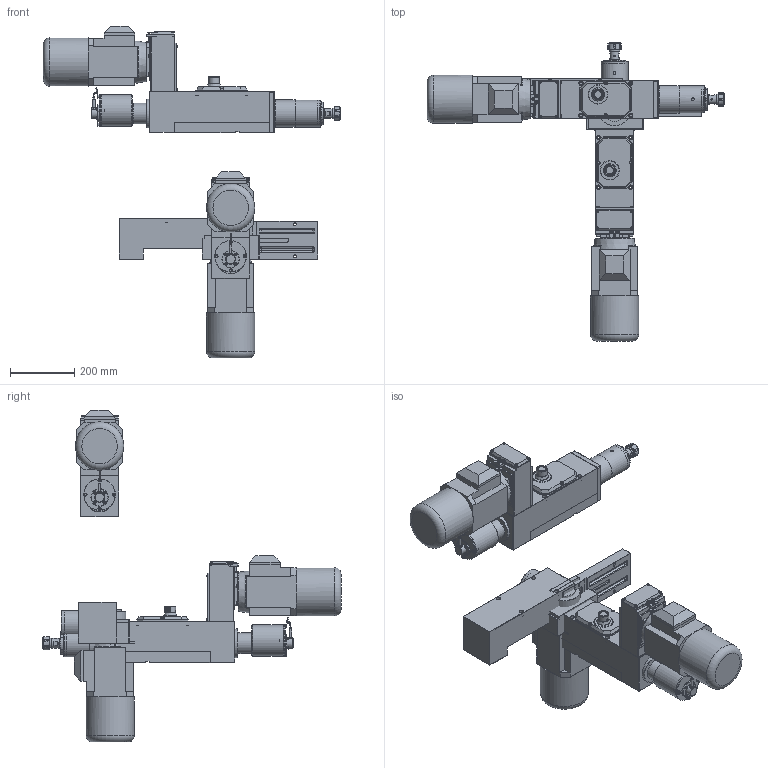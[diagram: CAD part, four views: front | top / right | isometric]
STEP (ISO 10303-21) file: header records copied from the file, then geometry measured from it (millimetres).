
FILE_DESCRIPTION( ( 'STEP AP203' ), '1' );
FILE_NAME( 'C:/Documents and Settings/Saverio/Desktop/disegni ironcad/unità serie 1/MC 112/MC 112_A02_P.stp', '2014-01-13T17:14:21', ( ' ' ), ( ' ' ), 'XStep 1.0', ' ', ' ' );
FILE_SCHEMA( ( 'CONFIG_CONTROL_DESIGN' ) );
Length unit declared in the file: metre
Products named in the file (54): Assem1; Assem2; Assem3; 1; 2; 3; 4; 5; 6; 7; 8; 9; 10; 11; 12; 13; 14; 15; 16; 17; 18; 19; 20; 21; 22; 23; 24; 25; 26; 27; 28; 29; 30; 31; 32; 33; 34; 35; 36; 37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
Bounding box: 925.2 x 927 x 1032.13 mm (x, y, z)
Volume: 40107275.2 mm3; surface area: 3339195.1 mm2
Topology: 153 solids, 153 shells, 3267 faces, 7437 edges, 4650 vertices
Faces by surface type: plane 1995, cylinder 726, cone 435, sphere 60, bspline 30, torus 21
Full cylindrical faces by diameter (mm): 4.134 x3, 4.5 x12, 5 x39, 5.5 x15, 6 x21, 6.5 x18, 6.75 x12, 6.9 x12, 7 x3, 8 x3, 8.385 x15, 8.5 x27, 9.87 x24, 13.5 x12, 18 x12, 20 x3, 20.5 x3, 23 x3, 30 x12, 30.5 x3, 32 x6, 41 x3, 42 x3, 52 x3, 52.5 x3, 54 x9, 54.4 x3, 60 x3, 64 x3, 70 x6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
Entity records: 33353 total; most frequent: CARTESIAN_POINT 7583, DIRECTION 4846, ORIENTED_EDGE 4394, EDGE_CURVE 2197, AXIS2_PLACEMENT_3D 1764, VERTEX_POINT 1512, EDGE_LOOP 1473, LINE 1318
